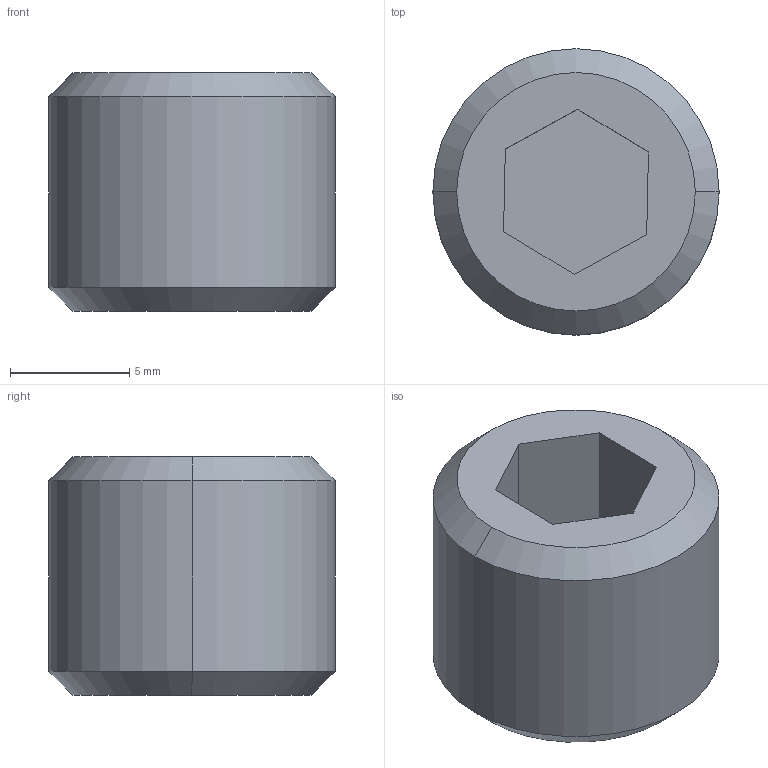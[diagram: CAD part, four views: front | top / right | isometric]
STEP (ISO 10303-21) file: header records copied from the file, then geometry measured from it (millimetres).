
FILE_DESCRIPTION (( 'STEP AP214' ), '1' );
FILE_NAME ('SE15-M12.STEP', '2020-11-02T15:30:29', ( 'August' ), ( '' ), 'SwSTEP 2.0', 'SolidWorks 2018', '' );
FILE_SCHEMA (( 'AUTOMOTIVE_DESIGN' ));
Length unit declared in the file: millimetre
Products named in the file (1): SE15-M12
Bounding box: 12 x 12 x 10 mm (x, y, z)
Volume: 939.5 mm3; surface area: 660.3 mm2
Topology: 1 solids, 1 shells, 15 faces, 32 edges, 20 vertices
Faces by surface type: plane 9, cone 4, cylinder 2
Entity records: 436 total; most frequent: DIRECTION 72, CARTESIAN_POINT 68, ORIENTED_EDGE 64, EDGE_CURVE 32, LINE 24, VECTOR 24, AXIS2_PLACEMENT_3D 24, VERTEX_POINT 20
